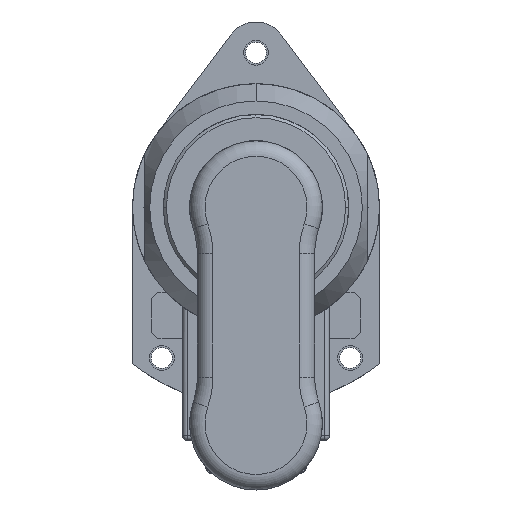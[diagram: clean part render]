
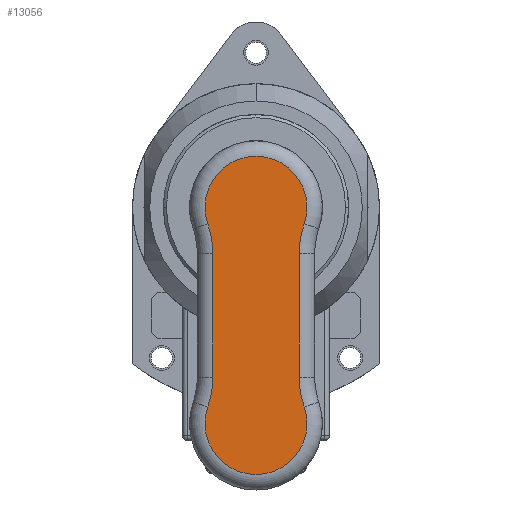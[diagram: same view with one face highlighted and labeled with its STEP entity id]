
A CAD part, left-side view. The second image highlights one B-rep face of the part: STEP entity #13056.
In plain terms, the highlighted planar face has unit normal (-1, 0, 0) as drawn and (0, 0, -1) by its records, which use the part's own axes.
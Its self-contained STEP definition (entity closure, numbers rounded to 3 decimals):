
#11747=CARTESIAN_POINT('',(70.,0.,0.));
#11748=DIRECTION('',(0.,0.,1.));
#11749=DIRECTION('',(-0.323,-0.946,0.));
#11750=AXIS2_PLACEMENT_3D('',#11747,#11748,#11749);
#11752=CARTESIAN_POINT('',(54.958,44.,0.));
#11753=DIRECTION('',(0.,0.,-1.));
#11754=DIRECTION('',(0.323,-0.946,0.));
#11755=AXIS2_PLACEMENT_3D('',#11752,#11753,#11754);
#11757=DIRECTION('',(-1.,0.,0.));
#11758=VECTOR('',#11757,39.917);
#11759=CARTESIAN_POINT('',(54.958,14.,0.));
#11760=LINE('',#11759,#11758);
#11761=CARTESIAN_POINT('',(15.042,44.,0.));
#11762=DIRECTION('',(0.,0.,-1.));
#11763=DIRECTION('',(0.,-1.,0.));
#11764=AXIS2_PLACEMENT_3D('',#11761,#11762,#11763);
#11766=CARTESIAN_POINT('',(0.,0.,0.));
#11767=DIRECTION('',(0.,0.,1.));
#11768=DIRECTION('',(0.323,0.946,0.));
#11769=AXIS2_PLACEMENT_3D('',#11766,#11767,#11768);
#11771=CARTESIAN_POINT('',(15.042,-44.,0.));
#11772=DIRECTION('',(0.,0.,-1.));
#11773=DIRECTION('',(-0.323,0.946,0.));
#11774=AXIS2_PLACEMENT_3D('',#11771,#11772,#11773);
#11776=DIRECTION('',(1.,0.,0.));
#11777=VECTOR('',#11776,39.917);
#11778=CARTESIAN_POINT('',(15.042,-14.,0.));
#11779=LINE('',#11778,#11777);
#11780=CARTESIAN_POINT('',(54.958,-44.,0.));
#11781=DIRECTION('',(0.,0.,-1.));
#11782=DIRECTION('',(0.,1.,0.));
#11783=AXIS2_PLACEMENT_3D('',#11780,#11781,#11782);
#12815=CARTESIAN_POINT('',(64.663,-15.613,0.));
#12816=CARTESIAN_POINT('',(64.663,15.613,0.));
#12817=VERTEX_POINT('',#12815);
#12818=VERTEX_POINT('',#12816);
#12821=CARTESIAN_POINT('',(54.958,14.,0.));
#12822=VERTEX_POINT('',#12821);
#12825=CARTESIAN_POINT('',(15.042,14.,0.));
#12826=VERTEX_POINT('',#12825);
#12829=CARTESIAN_POINT('',(5.337,15.613,0.));
#12830=VERTEX_POINT('',#12829);
#12833=CARTESIAN_POINT('',(5.337,-15.613,0.));
#12834=VERTEX_POINT('',#12833);
#12837=CARTESIAN_POINT('',(15.042,-14.,0.));
#12838=VERTEX_POINT('',#12837);
#12841=CARTESIAN_POINT('',(54.958,-14.,0.));
#12842=VERTEX_POINT('',#12841);
#13033=CARTESIAN_POINT('',(0.,0.,0.));
#13034=DIRECTION('',(0.,0.,1.));
#13035=DIRECTION('',(1.,0.,0.));
#13036=AXIS2_PLACEMENT_3D('',#13033,#13034,#13035);
#13037=PLANE('',#13036);
#13039=ORIENTED_EDGE('',*,*,#13038,.T.);
#13041=ORIENTED_EDGE('',*,*,#13040,.T.);
#13043=ORIENTED_EDGE('',*,*,#13042,.T.);
#13045=ORIENTED_EDGE('',*,*,#13044,.T.);
#13047=ORIENTED_EDGE('',*,*,#13046,.T.);
#13049=ORIENTED_EDGE('',*,*,#13048,.T.);
#13051=ORIENTED_EDGE('',*,*,#13050,.T.);
#13053=ORIENTED_EDGE('',*,*,#13052,.T.);
#13054=EDGE_LOOP('',(#13039,#13041,#13043,#13045,#13047,#13049,#13051,#13053));
#13055=FACE_OUTER_BOUND('',#13054,.F.);
#13056=ADVANCED_FACE('',(#13055),#13037,.F.);
#11751=CIRCLE('',#11750,16.5);
#11756=CIRCLE('',#11755,30.);
#11765=CIRCLE('',#11764,30.);
#11770=CIRCLE('',#11769,16.5);
#11775=CIRCLE('',#11774,30.);
#11784=CIRCLE('',#11783,30.);
#13038=EDGE_CURVE('',#12817,#12818,#11751,.T.);
#13040=EDGE_CURVE('',#12818,#12822,#11756,.T.);
#13042=EDGE_CURVE('',#12822,#12826,#11760,.T.);
#13044=EDGE_CURVE('',#12826,#12830,#11765,.T.);
#13046=EDGE_CURVE('',#12830,#12834,#11770,.T.);
#13048=EDGE_CURVE('',#12834,#12838,#11775,.T.);
#13050=EDGE_CURVE('',#12838,#12842,#11779,.T.);
#13052=EDGE_CURVE('',#12842,#12817,#11784,.T.);
